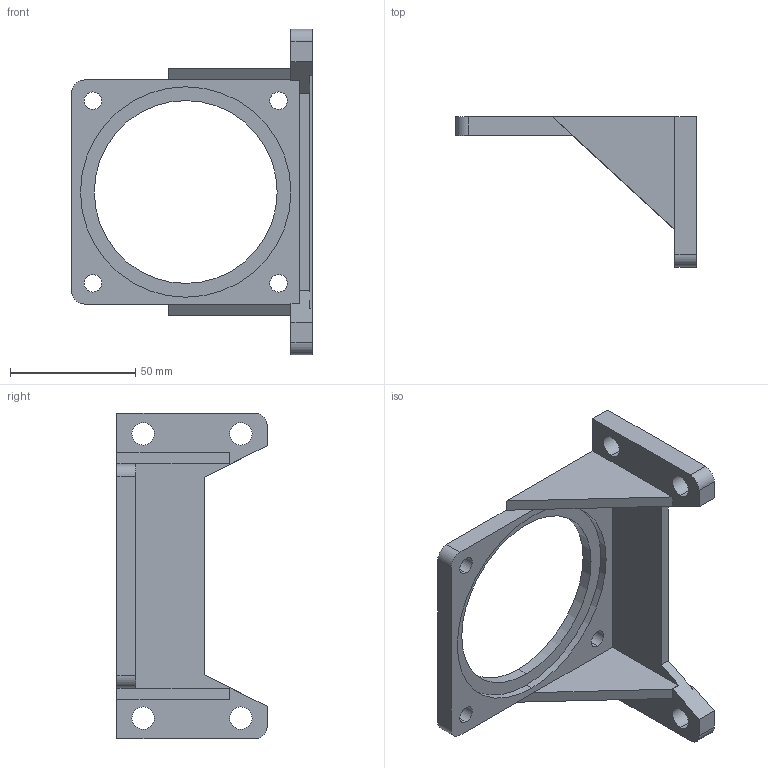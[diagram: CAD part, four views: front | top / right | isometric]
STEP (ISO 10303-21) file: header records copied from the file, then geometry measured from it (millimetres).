
FILE_DESCRIPTION (( 'STEP AP203' ), '1' );
FILE_NAME ('M5假蚾盓殤.STEP', '2018-12-10T06:12:24', ( 'china' ), ( 'china' ), 'SwSTEP 2.0', 'SolidWorks 2014', '' );
FILE_SCHEMA (( 'CONFIG_CONTROL_DESIGN' ));
Length unit declared in the file: millimetre
Products named in the file (1): M5假蚾盓殤
Bounding box: 96 x 60 x 130 mm (x, y, z)
Volume: 65055.5 mm3; surface area: 29624.9 mm2
Topology: 1 solids, 1 shells, 53 faces, 146 edges, 96 vertices
Faces by surface type: plane 29, cylinder 24
Entity records: 1809 total; most frequent: DIRECTION 302, CARTESIAN_POINT 296, ORIENTED_EDGE 292, EDGE_CURVE 146, AXIS2_PLACEMENT_3D 102, LINE 98, VECTOR 98, VERTEX_POINT 96
